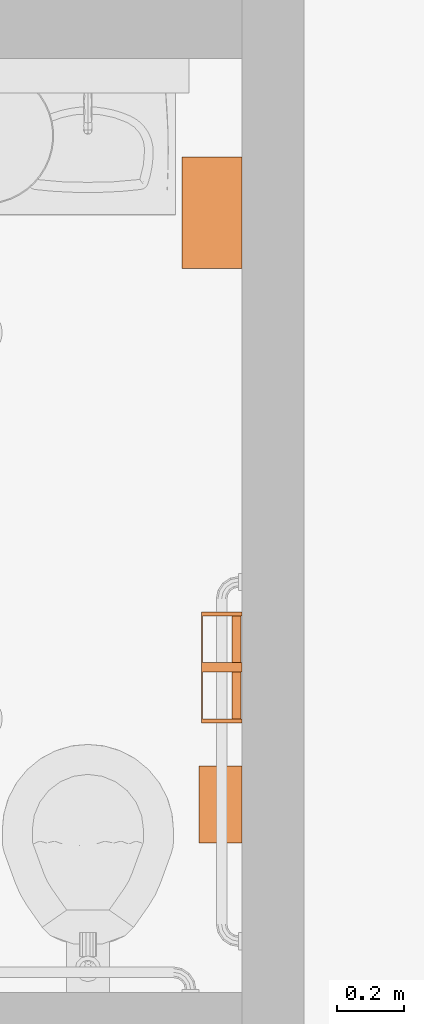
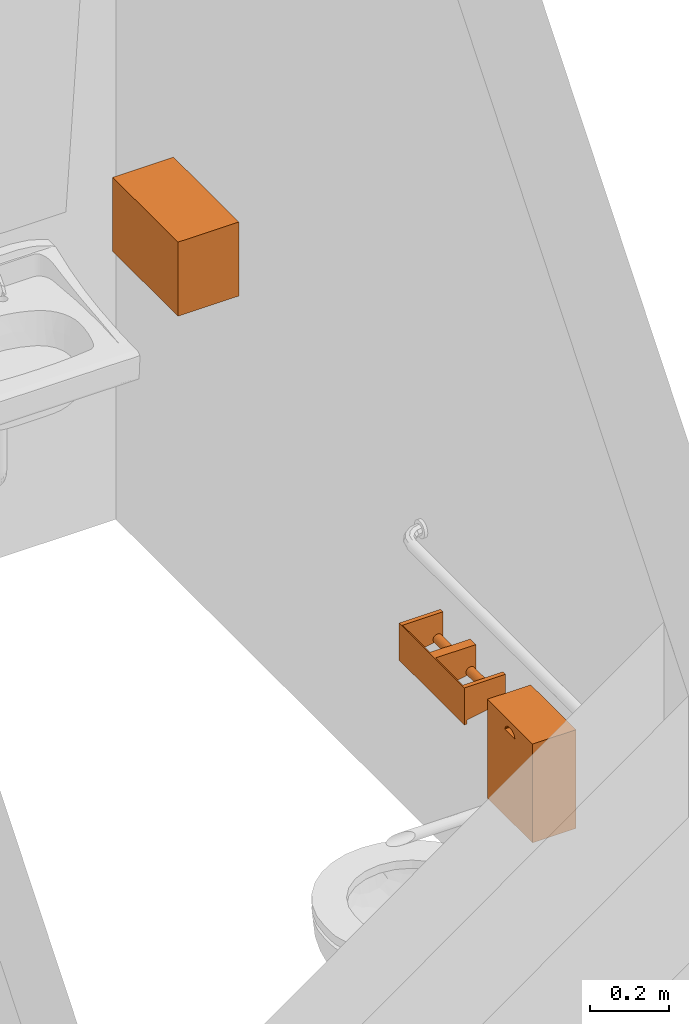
# One storey, part 114 of 142: 3 proxies.
"""IFC2X3 building model written with IfcOpenShell, lengths in feet."""

from ifc_helpers import new_model, entity, si_unit, converted_unit, derived_unit, direction, frame, frame_2d, origin, origin_2d_with_axis, place, context, subcontext, project, spatial, polyline, rectangle, circle, outline, extrude, source, transform, mapped, type_object, type_shapes, element, save


model = new_model("IFC2X3")

# Units and contexts
model_context = context("Model", 3, precision=0.0001, world=origin(), true_north=direction((6.12303176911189e-17, 1.0)))
body_context = subcontext(model_context, "Body", "Model", "MODEL_VIEW")
ifc_project = project(units=[converted_unit("LENGTHUNIT", "FOOT", entity("IfcRatioMeasure", 0.3048), si_unit("LENGTHUNIT", "METRE"), dimensions=[1, 0, 0, 0, 0, 0, 0]), converted_unit("AREAUNIT", "SQUARE FOOT", entity("IfcRatioMeasure", 0.09290304), si_unit("AREAUNIT", "SQUARE_METRE"), dimensions=[2, 0, 0, 0, 0, 0, 0]), converted_unit("VOLUMEUNIT", "CUBIC FOOT", entity("IfcRatioMeasure", 0.028316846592), si_unit("VOLUMEUNIT", "CUBIC_METRE"), dimensions=[3, 0, 0, 0, 0, 0, 0]), converted_unit("PLANEANGLEUNIT", "DEGREE", entity("IfcRatioMeasure", 0.0174532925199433), si_unit("PLANEANGLEUNIT", "RADIAN"), dimensions=[0, 0, 0, 0, 0, 0, 0]), si_unit("MASSUNIT", "GRAM", prefix="KILO"), derived_unit("MASSDENSITYUNIT", [(si_unit("MASSUNIT", "GRAM", prefix="KILO"), 1), (si_unit("LENGTHUNIT", "METRE"), -3)]), si_unit("TIMEUNIT", "SECOND"), si_unit("FREQUENCYUNIT", "HERTZ"), si_unit("THERMODYNAMICTEMPERATUREUNIT", "DEGREE_CELSIUS"), derived_unit("THERMALTRANSMITTANCEUNIT", [(si_unit("MASSUNIT", "GRAM", prefix="KILO"), 1), (si_unit("THERMODYNAMICTEMPERATUREUNIT", "KELVIN"), -1), (si_unit("TIMEUNIT", "SECOND"), -3)]), derived_unit("VOLUMETRICFLOWRATEUNIT", [(si_unit("LENGTHUNIT", "METRE"), 3), (si_unit("TIMEUNIT", "SECOND"), -1)]), si_unit("ELECTRICCURRENTUNIT", "AMPERE"), si_unit("ELECTRICVOLTAGEUNIT", "VOLT"), si_unit("POWERUNIT", "WATT"), si_unit("FORCEUNIT", "NEWTON"), si_unit("ILLUMINANCEUNIT", "LUX"), si_unit("LUMINOUSFLUXUNIT", "LUMEN"), si_unit("LUMINOUSINTENSITYUNIT", "CANDELA"), derived_unit("USERDEFINED", [(si_unit("MASSUNIT", "GRAM", prefix="KILO"), -1), (si_unit("LENGTHUNIT", "METRE"), -2), (si_unit("TIMEUNIT", "SECOND"), 3), (si_unit("LUMINOUSFLUXUNIT", "LUMEN"), 1)]), derived_unit("LINEARVELOCITYUNIT", [(si_unit("LENGTHUNIT", "METRE"), 1), (si_unit("TIMEUNIT", "SECOND"), -1)]), si_unit("PRESSUREUNIT", "PASCAL"), derived_unit("USERDEFINED", [(si_unit("LENGTHUNIT", "METRE"), -2), (si_unit("MASSUNIT", "GRAM", prefix="KILO"), 1), (si_unit("TIMEUNIT", "SECOND"), -2)])], contexts=[model_context])

# Site, building, storey, space
site_placement = place(None, origin())
site = spatial("IfcSite", under=ifc_project, at=site_placement, Name="Default", CompositionType="ELEMENT")
building_placement = place(site_placement, origin())
building = spatial("IfcBuilding", under=site, at=building_placement, Name="OUTPATIENT / PACT CLINIC (Ch. 265)", CompositionType="ELEMENT")
storey_placement = place(building_placement, origin())
storey = spatial("IfcBuildingStorey", under=building, at=storey_placement, Name="LEVEL 1", CompositionType="ELEMENT", Elevation=0.0)
space_placement = place(storey_placement, origin())
space = spatial("IfcSpace", under=storey, at=space_placement, Name="TPG01", CompositionType="ELEMENT", InteriorOrExteriorSpace="INTERNAL")

# Proxies
building_element_proxy_type_1 = type_object("IfcBuildingElementProxyType", Name="A5200 - Dispenser, Toilet Tissue, SS, 2-Roll, Surface Mntd", PredefinedType="NOTDEFINED")
shared_shape_1 = source(origin(), body_context, "Body", "SweptSolid", [
    extrude(circle(Radius=0.0439072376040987, at=frame_2d((-4.93038065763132e-32, -5.55111512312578e-17), x_axis=(1.0, 0.0))), frame((0.0468750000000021, -0.344872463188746, 0.125668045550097), z_axis=(1.0, 0.0, 0.0), x_axis=(0.0, 0.0, 1.0)), (0.0, 0.0, 1.0), 0.453124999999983),
    extrude(circle(Radius=0.0061848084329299, at=origin_2d_with_axis()), frame((0.0468750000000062, -0.34487246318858, 0.125668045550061), z_axis=(1.0, 0.0, 0.0), x_axis=(0.0, -1.0, 0.0)), (0.0, 0.0, 1.0), 0.453124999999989),
    extrude(circle(Radius=0.0439072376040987, at=frame_2d((-9.86076131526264e-32, -1.11022302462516e-16), x_axis=(1.0, 0.0))), frame((-0.500000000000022, -0.344872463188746, 0.125668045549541), z_axis=(1.0, 0.0, 0.0), x_axis=(0.0, 0.0, 1.0)), (0.0, 0.0, 1.0), 0.453124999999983),
    extrude(rectangle(XDim=0.0104166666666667, YDim=0.541666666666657, at=origin_2d_with_axis()), frame((0.270833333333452, -0.00520833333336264, 0.0), z_axis=(0.0, 0.0, 1.0), x_axis=(0.0, 1.0, 0.0)), (0.0, 0.0, 1.0), 0.375668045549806),
    extrude(outline(polyline([(-0.140625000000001, -0.225313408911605), (0.255208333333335, -0.225313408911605), (0.255208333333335, 0.0412295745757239), (-0.114583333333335, 0.108687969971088), (-0.114583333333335, 0.150354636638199), (-0.140625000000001, 0.150354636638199), (-0.140625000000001, -0.225313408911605)])), frame((0.0, -0.140625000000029, 0.15035463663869), z_axis=(1.0, 0.0, 0.0), x_axis=(0.0, -1.0, 0.0)), (0.0, 0.0, 1.0), 0.0468750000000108),
    extrude(outline(polyline([(-0.140625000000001, -0.225313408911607), (0.255208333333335, -0.225313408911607), (0.255208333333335, 0.0412295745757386), (-0.114583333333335, 0.108687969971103), (-0.114583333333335, 0.150354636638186), (-0.140625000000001, 0.150354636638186), (-0.140625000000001, -0.225313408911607)])), frame((0.49999999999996, -0.140625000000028, 0.150354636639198), z_axis=(1.0, 0.0, 0.0), x_axis=(0.0, -1.0, 0.0)), (0.0, 0.0, 1.0), 0.0416666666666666),
    extrude(circle(Radius=0.0061848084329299, at=frame_2d((-2.46519032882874e-32, -2.77555756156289e-17), x_axis=(1.0, 0.0))), frame((-0.500000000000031, -0.344872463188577, 0.125668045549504), z_axis=(1.0, 0.0, 0.0), x_axis=(0.0, -1.0, 0.0)), (0.0, 0.0, 1.0), 0.453124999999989),
    extrude(rectangle(XDim=0.0104166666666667, YDim=0.541666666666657, at=origin_2d_with_axis()), frame((-0.27083333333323, -0.00520833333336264, 0.0), z_axis=(0.0, 0.0, 1.0), x_axis=(0.0, 1.0, 0.0)), (0.0, 0.0, 1.0), 0.375668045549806),
    extrude(outline(polyline([(-0.140625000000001, -0.225313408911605), (0.255208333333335, -0.225313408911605), (0.255208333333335, 0.041229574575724), (-0.114583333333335, 0.108687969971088), (-0.114583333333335, 0.150354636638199), (-0.140625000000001, 0.150354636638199), (-0.140625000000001, -0.225313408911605)])), frame((-0.0468750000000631, -0.140625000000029, 0.150354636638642), z_axis=(1.0, 0.0, 0.0), x_axis=(0.0, -1.0, 0.0)), (0.0, 0.0, 1.0), 0.0468750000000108),
    extrude(outline(polyline([(-0.140625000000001, -0.225313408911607), (0.255208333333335, -0.225313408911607), (0.255208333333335, 0.0412295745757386), (-0.114583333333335, 0.108687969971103), (-0.114583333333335, 0.150354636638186), (-0.140625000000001, 0.150354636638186), (-0.140625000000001, -0.225313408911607)])), frame((-0.541666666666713, -0.140625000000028, 0.150354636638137), z_axis=(1.0, 0.0, 0.0), x_axis=(0.0, -1.0, 0.0)), (0.0, 0.0, 1.0), 0.0416666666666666),
])
type_shapes(building_element_proxy_type_1, [shared_shape_1])
proxy_1_placement = place(space_placement, frame((447.359144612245, -937.972572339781, 1.97884114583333), z_axis=(0.0, 0.0, 1.0), x_axis=(0.0, 1.0, 0.0)))
element("IfcBuildingElementProxy", 1, at=proxy_1_placement, inside=space, type_object=building_element_proxy_type_1, Name="A5200 - Dispenser, Toilet Tissue, SS, 2-Roll, Surface Mntd1:A5200 - Dispenser, Toilet Tissue, SS, 2-Roll, Surface Mntd", ObjectType="A5200 - Dispenser, Toilet Tissue, SS, 2-Roll, Surface Mntd", context=body_context, shape_type="MappedRepresentation", body=[
    mapped(shared_shape_1, transform((0.0, 0.0, 0.0), scale=1.0)),
])
building_element_proxy_type_2 = type_object("IfcBuildingElementProxyType", Name="A5090 - Dispenser, Sanitary Napkin, SS, Surface Mounted", PredefinedType="NOTDEFINED")
shared_shape_2 = source(origin(), body_context, "Body", "SweptSolid", [
    extrude(rectangle(XDim=0.0833333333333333, YDim=0.75, at=origin_2d_with_axis()), frame((0.0, -0.0416666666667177, 0.87500000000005), z_axis=(0.0, 0.0, 1.0), x_axis=(0.0, 1.0, 0.0)), (0.0, 0.0, 1.0), 0.125000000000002),
    extrude(outline(polyline([(-0.0828981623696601, -0.378205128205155), (0.0421018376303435, -0.378205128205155), (0.042101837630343, -0.0865384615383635), (0.0166807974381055, -0.0793339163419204), (-0.0043447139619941, -0.0589660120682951), (-0.017339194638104, -0.0289565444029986), (-0.0200557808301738, 0.0055055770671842), (-0.0120247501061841, 0.038461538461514), (0.00536525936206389, 0.0642129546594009), (0.0291073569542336, 0.0783071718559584), (0.0421018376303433, 0.0801282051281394), (0.0421018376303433, 0.371794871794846), (-0.0828981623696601, 0.371794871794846), (-0.0828981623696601, -0.378205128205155)])), frame((-0.00320512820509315, -0.416666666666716, 0.917101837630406), z_axis=(0.0, 1.0, 0.0), x_axis=(0.0, 0.0, -1.0)), (0.0, 0.0, 1.0), 0.333333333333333),
    extrude(rectangle(XDim=0.416666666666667, YDim=0.749999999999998, at=origin_2d_with_axis()), frame((0.0, -0.208333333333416, 0.0), z_axis=(0.0, 0.0, 1.0), x_axis=(0.0, 1.0, 0.0)), (0.0, 0.0, 1.0), 0.875000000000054),
])
type_shapes(building_element_proxy_type_2, [shared_shape_2])
proxy_2_placement = place(space_placement, frame((447.754977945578, -939.305905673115, 1.5), z_axis=(0.0, 0.0, 1.0), x_axis=(0.0, -1.0, 0.0)))
element("IfcBuildingElementProxy", 2, at=proxy_2_placement, inside=space, type_object=building_element_proxy_type_2, Name="A5090 - Dispenser, Sanitary Napkin, SS, Surface Mounted1:A5090 - Dispenser, Sanitary Napkin, SS, Surface Mounted", ObjectType="A5090 - Dispenser, Sanitary Napkin, SS, Surface Mounted", context=body_context, shape_type="MappedRepresentation", body=[
    mapped(shared_shape_2, transform((0.0, 0.0, 0.0), scale=1.0)),
])
building_element_proxy_type_3 = type_object("IfcBuildingElementProxyType", Name="A5080 - Dispenser, Paper Towel", PredefinedType="NOTDEFINED")
shared_shape_3 = source(origin(), body_context, "Body", "SweptSolid", [
    extrude(rectangle(XDim=0.58333333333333, YDim=1.08333333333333, at=frame_2d((9.99200722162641e-16, 0.0), x_axis=(1.0, 0.0))), frame((0.0, -0.291666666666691, 0.0), z_axis=(0.0, 0.0, 1.0), x_axis=(0.0, 1.0, 0.0)), (0.0, 0.0, 1.0), 0.75),
])
type_shapes(building_element_proxy_type_3, [shared_shape_3])
proxy_3_placement = place(space_placement, frame((447.754977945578, -933.545508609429, 3.5), z_axis=(0.0, 0.0, 1.0), x_axis=(0.0, -1.0, 0.0)))
element("IfcBuildingElementProxy", 3, at=proxy_3_placement, inside=space, type_object=building_element_proxy_type_3, Name="A5080 - Dispenser, Paper Towel:A5080 - Dispenser, Paper Towel", ObjectType="A5080 - Dispenser, Paper Towel", context=body_context, shape_type="MappedRepresentation", body=[
    mapped(shared_shape_3, transform((0.0, 0.0, 0.0), scale=1.0)),
])

save(model, "model.ifc")
